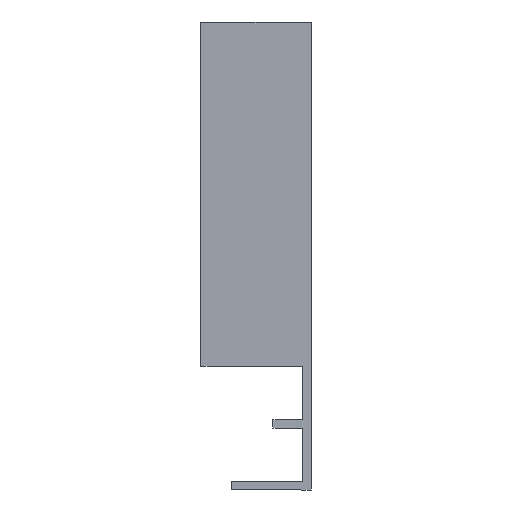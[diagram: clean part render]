
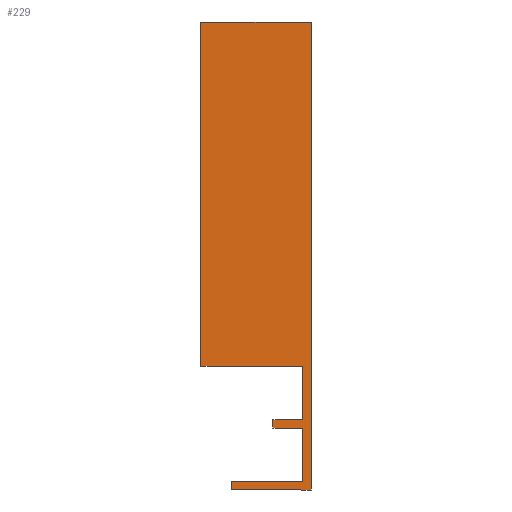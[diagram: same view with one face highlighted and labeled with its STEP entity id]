
A CAD part, left-side view. The second image highlights one B-rep face of the part: STEP entity #229.
In plain terms, the highlighted planar face has unit normal (-1, 0, 0).
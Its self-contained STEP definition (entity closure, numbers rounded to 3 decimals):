
#3 = DIRECTION ( 'NONE',  ( 0., -1., 0. ) ) ;
#4 = DIRECTION ( 'NONE',  ( -1., 0., 0. ) ) ;
#8 = VERTEX_POINT ( 'NONE', #18 ) ;
#9 = CARTESIAN_POINT ( 'NONE',  ( -535.5, 10.4, 49.7 ) ) ;
#11 = VERTEX_POINT ( 'NONE', #17 ) ;
#12 = VERTEX_POINT ( 'NONE', #467 ) ;
#17 = CARTESIAN_POINT ( 'NONE',  ( -535.5, 6., -17.9 ) ) ;
#18 = CARTESIAN_POINT ( 'NONE',  ( -535.5, -5.5, -17.9 ) ) ;
#20 = VERTEX_POINT ( 'NONE', #9 ) ;
#22 = VERTEX_POINT ( 'NONE', #27 ) ;
#27 = CARTESIAN_POINT ( 'NONE',  ( -535.5, -4.3, -8.95 ) ) ;
#68 = PLANE ( 'NONE',  #484 ) ;
#75 = CARTESIAN_POINT ( 'NONE',  ( -535.5, 10.4, 0. ) ) ;
#79 = CARTESIAN_POINT ( 'NONE',  ( -535.5, 6., -16.7 ) ) ;
#91 = CARTESIAN_POINT ( 'NONE',  ( -535.5, -4.3, 0. ) ) ;
#92 = CARTESIAN_POINT ( 'NONE',  ( -535.5, 6., -16.7 ) ) ;
#97 = CARTESIAN_POINT ( 'NONE',  ( -535.5, -4.3, -7.75 ) ) ;
#98 = CARTESIAN_POINT ( 'NONE',  ( -535.5, 0., -7.75 ) ) ;
#100 = CARTESIAN_POINT ( 'NONE',  ( -535.5, 0., -8.95 ) ) ;
#103 = CARTESIAN_POINT ( 'NONE',  ( -535.5, -5.5, 49.7 ) ) ;
#113 = CARTESIAN_POINT ( 'NONE',  ( -535.5, -4.3, -8.95 ) ) ;
#114 = CARTESIAN_POINT ( 'NONE',  ( -535.5, 10.4, 49.7 ) ) ;
#115 = DIRECTION ( 'NONE',  ( 0., 0., -1. ) ) ;
#120 = DIRECTION ( 'NONE',  ( 0., 0., -1. ) ) ;
#130 = CARTESIAN_POINT ( 'NONE',  ( -535.5, 6., -17.9 ) ) ;
#133 = DIRECTION ( 'NONE',  ( 0., -1., 0. ) ) ;
#142 = CARTESIAN_POINT ( 'NONE',  ( -535.5, -5.5, 49.7 ) ) ;
#143 = DIRECTION ( 'NONE',  ( 0., 1., 0. ) ) ;
#146 = CARTESIAN_POINT ( 'NONE',  ( -535.5, -5.5, -17.9 ) ) ;
#155 = DIRECTION ( 'NONE',  ( 0., 0., 1. ) ) ;
#160 = CARTESIAN_POINT ( 'NONE',  ( -535.5, 10.4, 0. ) ) ;
#161 = DIRECTION ( 'NONE',  ( 0., -1., 0. ) ) ;
#166 = CARTESIAN_POINT ( 'NONE',  ( -535.5, -4.3, -16.7 ) ) ;
#168 = CARTESIAN_POINT ( 'NONE',  ( -535.5, 6., -16.7 ) ) ;
#169 = DIRECTION ( 'NONE',  ( 0., 0., -1. ) ) ;
#170 = CARTESIAN_POINT ( 'NONE',  ( -535.5, 0., -7.75 ) ) ;
#171 = DIRECTION ( 'NONE',  ( 0., 0., -1. ) ) ;
#176 = DIRECTION ( 'NONE',  ( 0., 1., 0. ) ) ;
#185 = CARTESIAN_POINT ( 'NONE',  ( -535.5, -4.3, -7.75 ) ) ;
#186 = DIRECTION ( 'NONE',  ( 0., 1., 0. ) ) ;
#191 = CARTESIAN_POINT ( 'NONE',  ( -535.5, 0., -8.95 ) ) ;
#192 = DIRECTION ( 'NONE',  ( 0., -1., 0. ) ) ;
#196 = CARTESIAN_POINT ( 'NONE',  ( -535.5, -4.3, 0. ) ) ;
#197 = DIRECTION ( 'NONE',  ( 0., 0., -1. ) ) ;
#229 = ADVANCED_FACE ( 'NONE', ( #352 ), #68, .T. ) ;
#290 = ORIENTED_EDGE ( 'NONE', *, *, #478, .T. ) ;
#291 = ORIENTED_EDGE ( 'NONE', *, *, #534, .T. ) ;
#292 = ORIENTED_EDGE ( 'NONE', *, *, #520, .T. ) ;
#293 = ORIENTED_EDGE ( 'NONE', *, *, #529, .T. ) ;
#294 = ORIENTED_EDGE ( 'NONE', *, *, #539, .T. ) ;
#295 = ORIENTED_EDGE ( 'NONE', *, *, #512, .T. ) ;
#296 = ORIENTED_EDGE ( 'NONE', *, *, #494, .T. ) ;
#297 = ORIENTED_EDGE ( 'NONE', *, *, #503, .T. ) ;
#298 = ORIENTED_EDGE ( 'NONE', *, *, #489, .T. ) ;
#299 = ORIENTED_EDGE ( 'NONE', *, *, #519, .T. ) ;
#301 = ORIENTED_EDGE ( 'NONE', *, *, #522, .T. ) ;
#308 = ORIENTED_EDGE ( 'NONE', *, *, #480, .T. ) ;
#326 = EDGE_LOOP ( 'NONE', ( #301, #299, #298, #297, #296, #308, #295, #294, #293, #292, #291, #290 ) ) ;
#352 = FACE_OUTER_BOUND ( 'NONE', #326, .T. ) ;
#362 = LINE ( 'NONE', #113, #366 ) ;
#366 = VECTOR ( 'NONE', #115, 1000. ) ;
#367 = VECTOR ( 'NONE', #120, 1000. ) ;
#369 = LINE ( 'NONE', #114, #367 ) ;
#375 = LINE ( 'NONE', #130, #381 ) ;
#381 = VECTOR ( 'NONE', #133, 1000. ) ;
#388 = LINE ( 'NONE', #146, #403 ) ;
#391 = LINE ( 'NONE', #142, #392 ) ;
#392 = VECTOR ( 'NONE', #143, 1000. ) ;
#396 = LINE ( 'NONE', #166, #422 ) ;
#403 = VECTOR ( 'NONE', #155, 1000. ) ;
#408 = LINE ( 'NONE', #160, #409 ) ;
#409 = VECTOR ( 'NONE', #161, 1000. ) ;
#416 = LINE ( 'NONE', #168, #417 ) ;
#417 = VECTOR ( 'NONE', #169, 1000. ) ;
#418 = LINE ( 'NONE', #170, #419 ) ;
#419 = VECTOR ( 'NONE', #171, 1000. ) ;
#422 = VECTOR ( 'NONE', #176, 1000. ) ;
#423 = VECTOR ( 'NONE', #197, 1000. ) ;
#432 = LINE ( 'NONE', #185, #433 ) ;
#433 = VECTOR ( 'NONE', #186, 1000. ) ;
#434 = LINE ( 'NONE', #196, #423 ) ;
#437 = LINE ( 'NONE', #191, #438 ) ;
#438 = VECTOR ( 'NONE', #192, 1000. ) ;
#450 = VERTEX_POINT ( 'NONE', #92 ) ;
#456 = VERTEX_POINT ( 'NONE', #75 ) ;
#458 = VERTEX_POINT ( 'NONE', #91 ) ;
#460 = VERTEX_POINT ( 'NONE', #97 ) ;
#461 = VERTEX_POINT ( 'NONE', #98 ) ;
#463 = VERTEX_POINT ( 'NONE', #100 ) ;
#467 = CARTESIAN_POINT ( 'NONE',  ( -535.5, -4.3, -16.7 ) ) ;
#468 = VERTEX_POINT ( 'NONE', #103 ) ;
#478 = EDGE_CURVE ( 'NONE', #22, #12, #362, .T. ) ;
#480 = EDGE_CURVE ( 'NONE', #20, #456, #369, .T. ) ;
#484 = AXIS2_PLACEMENT_3D ( 'NONE', #79, #4, #3 ) ;
#489 = EDGE_CURVE ( 'NONE', #11, #8, #375, .T. ) ;
#494 = EDGE_CURVE ( 'NONE', #468, #20, #391, .T. ) ;
#503 = EDGE_CURVE ( 'NONE', #8, #468, #388, .T. ) ;
#512 = EDGE_CURVE ( 'NONE', #456, #458, #408, .T. ) ;
#519 = EDGE_CURVE ( 'NONE', #450, #11, #416, .T. ) ;
#520 = EDGE_CURVE ( 'NONE', #461, #463, #418, .T. ) ;
#522 = EDGE_CURVE ( 'NONE', #12, #450, #396, .T. ) ;
#529 = EDGE_CURVE ( 'NONE', #460, #461, #432, .T. ) ;
#534 = EDGE_CURVE ( 'NONE', #463, #22, #437, .T. ) ;
#539 = EDGE_CURVE ( 'NONE', #458, #460, #434, .T. ) ;
